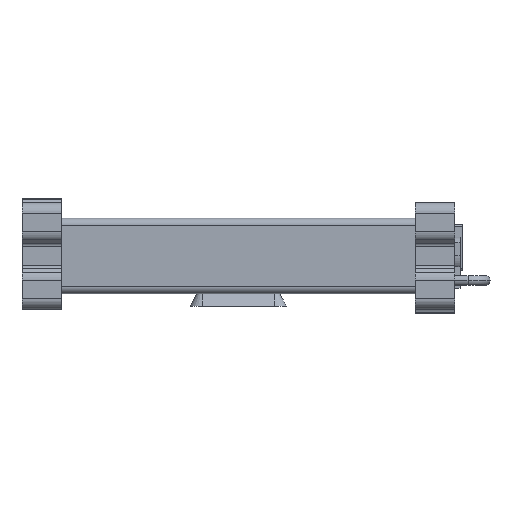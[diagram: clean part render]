
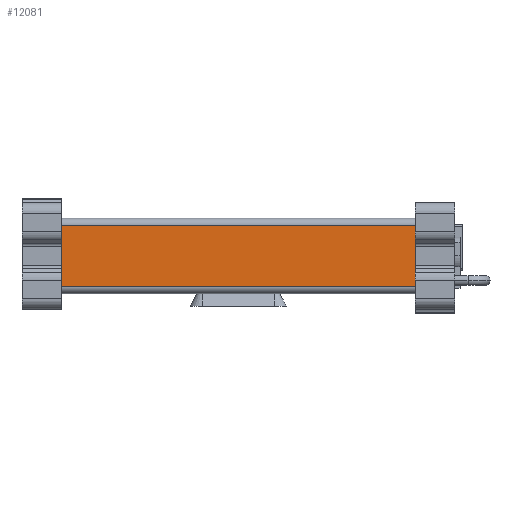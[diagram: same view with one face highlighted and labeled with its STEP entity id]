
A CAD part, front view. The second image highlights one B-rep face of the part: STEP entity #12081.
In plain terms, the highlighted planar face has unit normal (0, -1, 0).
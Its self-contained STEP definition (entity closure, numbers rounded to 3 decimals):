
#132 = DIRECTION ( 'NONE',  ( 0., 0., 1. ) ) ;
#1287 = DIRECTION ( 'NONE',  ( -1., 0., 0. ) ) ;
#1970 = VERTEX_POINT ( 'NONE', #9436 ) ;
#3408 = EDGE_CURVE ( 'NONE', #12349, #1970, #4350, .T. ) ;
#3553 = DIRECTION ( 'NONE',  ( 0., 0., -1. ) ) ;
#3630 = CARTESIAN_POINT ( 'NONE',  ( -83.518, -91.457, 14.124 ) ) ;
#3850 = EDGE_CURVE ( 'NONE', #14465, #4679, #6117, .T. ) ;
#4350 = LINE ( 'NONE', #11592, #14546 ) ;
#4679 = VERTEX_POINT ( 'NONE', #16001 ) ;
#4735 = LINE ( 'NONE', #13838, #24554 ) ;
#5085 = ORIENTED_EDGE ( 'NONE', *, *, #3408, .T. ) ;
#5625 = EDGE_CURVE ( 'NONE', #14465, #1970, #17863, .T. ) ;
#6117 = LINE ( 'NONE', #3630, #11197 ) ;
#6325 = ORIENTED_EDGE ( 'NONE', *, *, #5625, .F. ) ;
#9436 = CARTESIAN_POINT ( 'NONE',  ( 206.482, -91.457, 14.124 ) ) ;
#10445 = CARTESIAN_POINT ( 'NONE',  ( -83.518, -91.457, 14.124 ) ) ;
#11197 = VECTOR ( 'NONE', #3553, 1000. ) ;
#11592 = CARTESIAN_POINT ( 'NONE',  ( 206.482, -91.457, -35.455 ) ) ;
#12081 = ADVANCED_FACE ( 'NONE', ( #12554 ), #14607, .F. ) ;
#12349 = VERTEX_POINT ( 'NONE', #13661 ) ;
#12554 = FACE_OUTER_BOUND ( 'NONE', #13592, .T. ) ;
#12768 = DIRECTION ( 'NONE',  ( 0., 1., 0. ) ) ;
#13592 = EDGE_LOOP ( 'NONE', ( #6325, #20221, #14884, #5085 ) ) ;
#13661 = CARTESIAN_POINT ( 'NONE',  ( 206.482, -91.457, -35.455 ) ) ;
#13838 = CARTESIAN_POINT ( 'NONE',  ( -83.518, -91.457, -35.455 ) ) ;
#14465 = VERTEX_POINT ( 'NONE', #15115 ) ;
#14546 = VECTOR ( 'NONE', #132, 1000. ) ;
#14607 = PLANE ( 'NONE',  #16267 ) ;
#14884 = ORIENTED_EDGE ( 'NONE', *, *, #16000, .T. ) ;
#15115 = CARTESIAN_POINT ( 'NONE',  ( -83.518, -91.457, 14.124 ) ) ;
#16000 = EDGE_CURVE ( 'NONE', #4679, #12349, #4735, .T. ) ;
#16001 = CARTESIAN_POINT ( 'NONE',  ( -83.518, -91.457, -35.455 ) ) ;
#16267 = AXIS2_PLACEMENT_3D ( 'NONE', #24263, #12768, #1287 ) ;
#17863 = LINE ( 'NONE', #10445, #22989 ) ;
#20221 = ORIENTED_EDGE ( 'NONE', *, *, #3850, .T. ) ;
#22989 = VECTOR ( 'NONE', #23887, 1000. ) ;
#23429 = DIRECTION ( 'NONE',  ( 1., 0., 0. ) ) ;
#23887 = DIRECTION ( 'NONE',  ( 1., 0., 0. ) ) ;
#24263 = CARTESIAN_POINT ( 'NONE',  ( 213.76, -91.457, -36.722 ) ) ;
#24554 = VECTOR ( 'NONE', #23429, 1000. ) ;
